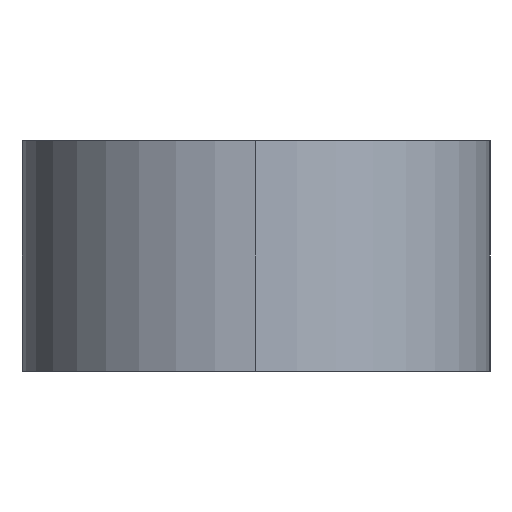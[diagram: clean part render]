
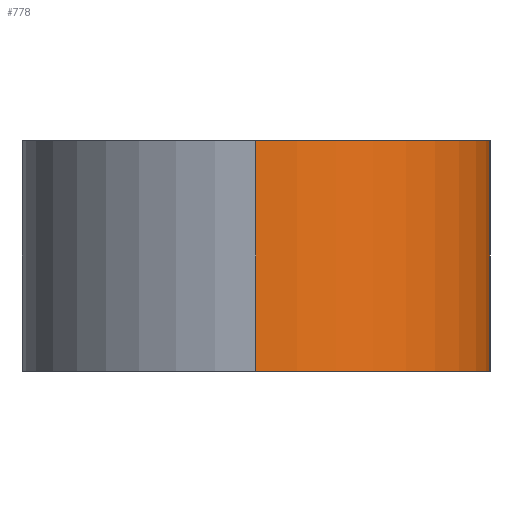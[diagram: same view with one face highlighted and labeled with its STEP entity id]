
A CAD part, left-side view. The second image highlights one B-rep face of the part: STEP entity #778.
In plain terms, the highlighted cylindrical face has radius 6.2 mm (diameter 12.4 mm), a partial arc.
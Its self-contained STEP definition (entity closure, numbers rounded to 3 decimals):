
#122 = FACE_OUTER_BOUND ( 'NONE', #5332, .T. ) ;
#195 = EDGE_CURVE ( 'NONE', #5966, #5836, #4990, .T. ) ;
#690 = CIRCLE ( 'NONE', #6654, 6.2 ) ;
#778 = ADVANCED_FACE ( 'NONE', ( #122 ), #2372, .T. ) ;
#1040 = CARTESIAN_POINT ( 'NONE',  ( -19.05, 0., -3.05 ) ) ;
#1332 = EDGE_CURVE ( 'NONE', #6803, #5966, #6817, .T. ) ;
#1436 = ORIENTED_EDGE ( 'NONE', *, *, #6856, .T. ) ;
#1549 = DIRECTION ( 'NONE',  ( 0., 0., -1. ) ) ;
#1670 = AXIS2_PLACEMENT_3D ( 'NONE', #5839, #3058, #5952 ) ;
#1691 = CARTESIAN_POINT ( 'NONE',  ( -25.25, 0., 1. ) ) ;
#1840 = EDGE_CURVE ( 'NONE', #5594, #5836, #690, .T. ) ;
#2280 = DIRECTION ( 'NONE',  ( 0., 0., -1. ) ) ;
#2372 = CYLINDRICAL_SURFACE ( 'NONE', #6066, 6.2 ) ;
#2613 = CARTESIAN_POINT ( 'NONE',  ( -19.05, -6.2, -3.05 ) ) ;
#3058 = DIRECTION ( 'NONE',  ( 0., 0., 1. ) ) ;
#3161 = ORIENTED_EDGE ( 'NONE', *, *, #1840, .T. ) ;
#3373 = CARTESIAN_POINT ( 'NONE',  ( -19.05, -6.2, 3.05 ) ) ;
#3636 = CARTESIAN_POINT ( 'NONE',  ( -25.25, 0., 3.05 ) ) ;
#3863 = ORIENTED_EDGE ( 'NONE', *, *, #1332, .F. ) ;
#3864 = DIRECTION ( 'NONE',  ( 0., 0., 1. ) ) ;
#4051 = DIRECTION ( 'NONE',  ( -1., 0., 0. ) ) ;
#4612 = CARTESIAN_POINT ( 'NONE',  ( -19.05, 0., 1. ) ) ;
#4643 = DIRECTION ( 'NONE',  ( 0., 0., -1. ) ) ;
#4990 = LINE ( 'NONE', #6668, #5603 ) ;
#5328 = CARTESIAN_POINT ( 'NONE',  ( -25.25, 0., -3.05 ) ) ;
#5332 = EDGE_LOOP ( 'NONE', ( #3863, #1436, #3161, #6319 ) ) ;
#5416 = VECTOR ( 'NONE', #2280, 1000. ) ;
#5594 = VERTEX_POINT ( 'NONE', #5328 ) ;
#5603 = VECTOR ( 'NONE', #1549, 1000. ) ;
#5836 = VERTEX_POINT ( 'NONE', #2613 ) ;
#5839 = CARTESIAN_POINT ( 'NONE',  ( -19.05, 0., 3.05 ) ) ;
#5952 = DIRECTION ( 'NONE',  ( 1., 0., 0. ) ) ;
#5966 = VERTEX_POINT ( 'NONE', #3373 ) ;
#6066 = AXIS2_PLACEMENT_3D ( 'NONE', #4612, #4643, #4051 ) ;
#6153 = LINE ( 'NONE', #1691, #5416 ) ;
#6319 = ORIENTED_EDGE ( 'NONE', *, *, #195, .F. ) ;
#6654 = AXIS2_PLACEMENT_3D ( 'NONE', #1040, #3864, #6728 ) ;
#6668 = CARTESIAN_POINT ( 'NONE',  ( -19.05, -6.2, 1. ) ) ;
#6728 = DIRECTION ( 'NONE',  ( 1., 0., 0. ) ) ;
#6803 = VERTEX_POINT ( 'NONE', #3636 ) ;
#6817 = CIRCLE ( 'NONE', #1670, 6.2 ) ;
#6856 = EDGE_CURVE ( 'NONE', #6803, #5594, #6153, .T. ) ;
